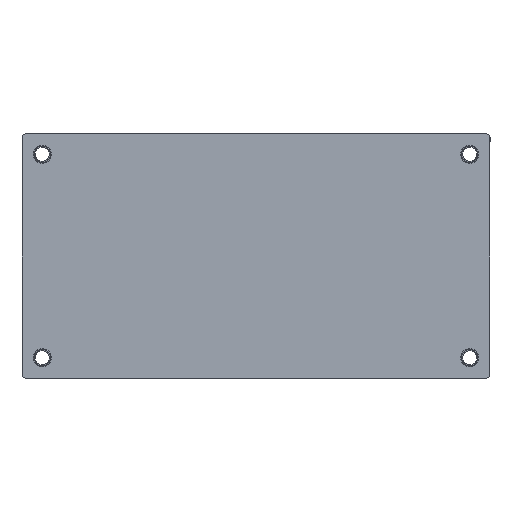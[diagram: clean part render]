
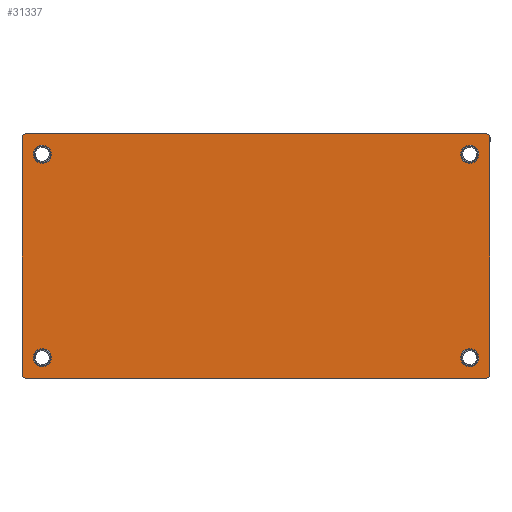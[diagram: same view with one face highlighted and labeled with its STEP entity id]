
A CAD part, front view. The second image highlights one B-rep face of the part: STEP entity #31337.
In plain terms, the highlighted planar face has unit normal (0, -1, 0).
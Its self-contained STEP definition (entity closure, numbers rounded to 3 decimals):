
#74 = CARTESIAN_POINT ( 'NONE',  ( 58.4, -1.5, -30.5 ) ) ;
#87 = VERTEX_POINT ( 'NONE', #30105 ) ;
#342 = ORIENTED_EDGE ( 'NONE', *, *, #11910, .F. ) ;
#655 = EDGE_CURVE ( 'NONE', #23307, #87, #2824, .T. ) ;
#1095 = CIRCLE ( 'NONE', #26926, 2.25 ) ;
#1270 = AXIS2_PLACEMENT_3D ( 'NONE', #29353, #29191, #17192 ) ;
#1369 = CARTESIAN_POINT ( 'NONE',  ( -57.4, -1.5, 29.5 ) ) ;
#1965 = DIRECTION ( 'NONE',  ( 0., 0., -1. ) ) ;
#2291 = CARTESIAN_POINT ( 'NONE',  ( -57.4, -1.5, 30.5 ) ) ;
#2824 = CIRCLE ( 'NONE', #8525, 1. ) ;
#2994 = VECTOR ( 'NONE', #26561, 1000. ) ;
#3361 = VERTEX_POINT ( 'NONE', #15824 ) ;
#3375 = LINE ( 'NONE', #13261, #13070 ) ;
#3825 = FACE_BOUND ( 'NONE', #12614, .T. ) ;
#3958 = DIRECTION ( 'NONE',  ( 0., -1., 0. ) ) ;
#4102 = CARTESIAN_POINT ( 'NONE',  ( 58.4, -1.5, 29.5 ) ) ;
#4318 = EDGE_LOOP ( 'NONE', ( #342 ) ) ;
#4622 = EDGE_LOOP ( 'NONE', ( #10794 ) ) ;
#5109 = LINE ( 'NONE', #74, #15769 ) ;
#6070 = CARTESIAN_POINT ( 'NONE',  ( 58.4, -1.5, -29.5 ) ) ;
#6259 = FACE_BOUND ( 'NONE', #31270, .T. ) ;
#6479 = DIRECTION ( 'NONE',  ( 0., -1., 0. ) ) ;
#6579 = EDGE_CURVE ( 'NONE', #10495, #10495, #22077, .T. ) ;
#7095 = DIRECTION ( 'NONE',  ( 0., 0., -1. ) ) ;
#7222 = DIRECTION ( 'NONE',  ( 0., -1., 0. ) ) ;
#7696 = DIRECTION ( 'NONE',  ( 0., -1., 0. ) ) ;
#8226 = ORIENTED_EDGE ( 'NONE', *, *, #15524, .T. ) ;
#8525 = AXIS2_PLACEMENT_3D ( 'NONE', #1369, #3958, #25979 ) ;
#8778 = CARTESIAN_POINT ( 'NONE',  ( 53.35, -1.5, 25.4 ) ) ;
#8846 = FACE_BOUND ( 'NONE', #4622, .T. ) ;
#9236 = CARTESIAN_POINT ( 'NONE',  ( 57.4, -1.5, 29.5 ) ) ;
#10121 = ORIENTED_EDGE ( 'NONE', *, *, #26071, .T. ) ;
#10495 = VERTEX_POINT ( 'NONE', #25381 ) ;
#10509 = AXIS2_PLACEMENT_3D ( 'NONE', #19283, #24164, #1965 ) ;
#10719 = VERTEX_POINT ( 'NONE', #20182 ) ;
#10794 = ORIENTED_EDGE ( 'NONE', *, *, #21148, .F. ) ;
#11065 = AXIS2_PLACEMENT_3D ( 'NONE', #9236, #19247, #26552 ) ;
#11076 = VERTEX_POINT ( 'NONE', #28388 ) ;
#11910 = EDGE_CURVE ( 'NONE', #3361, #3361, #24989, .T. ) ;
#12614 = EDGE_LOOP ( 'NONE', ( #14808 ) ) ;
#13070 = VECTOR ( 'NONE', #15838, 1000. ) ;
#13261 = CARTESIAN_POINT ( 'NONE',  ( 58.4, -1.5, 30.5 ) ) ;
#13380 = ORIENTED_EDGE ( 'NONE', *, *, #30497, .T. ) ;
#13588 = LINE ( 'NONE', #23463, #22478 ) ;
#13716 = CARTESIAN_POINT ( 'NONE',  ( 58.4, -1.5, 30.5 ) ) ;
#13931 = CARTESIAN_POINT ( 'NONE',  ( -57.4, -1.5, -29.5 ) ) ;
#14094 = LINE ( 'NONE', #31406, #2994 ) ;
#14808 = ORIENTED_EDGE ( 'NONE', *, *, #17877, .F. ) ;
#15430 = AXIS2_PLACEMENT_3D ( 'NONE', #13716, #23584, #24535 ) ;
#15524 = EDGE_CURVE ( 'NONE', #24298, #31544, #25595, .T. ) ;
#15769 = VECTOR ( 'NONE', #31967, 1000. ) ;
#15824 = CARTESIAN_POINT ( 'NONE',  ( 53.35, -1.5, -27.65 ) ) ;
#15838 = DIRECTION ( 'NONE',  ( -1., 0., 0. ) ) ;
#16123 = FACE_OUTER_BOUND ( 'NONE', #24118, .T. ) ;
#16349 = ORIENTED_EDGE ( 'NONE', *, *, #25554, .T. ) ;
#16730 = ORIENTED_EDGE ( 'NONE', *, *, #6579, .F. ) ;
#16934 = ORIENTED_EDGE ( 'NONE', *, *, #27760, .T. ) ;
#17192 = DIRECTION ( 'NONE',  ( 0., 0., -1. ) ) ;
#17813 = ORIENTED_EDGE ( 'NONE', *, *, #655, .T. ) ;
#17874 = AXIS2_PLACEMENT_3D ( 'NONE', #8778, #29277, #7095 ) ;
#17877 = EDGE_CURVE ( 'NONE', #19647, #19647, #1095, .T. ) ;
#18764 = DIRECTION ( 'NONE',  ( 0., 0., -1. ) ) ;
#19119 = EDGE_CURVE ( 'NONE', #19859, #10719, #30599, .T. ) ;
#19170 = FACE_BOUND ( 'NONE', #4318, .T. ) ;
#19247 = DIRECTION ( 'NONE',  ( 0., -1., 0. ) ) ;
#19283 = CARTESIAN_POINT ( 'NONE',  ( 53.35, -1.5, -25.4 ) ) ;
#19647 = VERTEX_POINT ( 'NONE', #19976 ) ;
#19859 = VERTEX_POINT ( 'NONE', #22054 ) ;
#19976 = CARTESIAN_POINT ( 'NONE',  ( -53.35, -1.5, 23.15 ) ) ;
#20182 = CARTESIAN_POINT ( 'NONE',  ( -57.4, -1.5, -30.5 ) ) ;
#21148 = EDGE_CURVE ( 'NONE', #11076, #11076, #28588, .T. ) ;
#21793 = DIRECTION ( 'NONE',  ( 0., 0., -1. ) ) ;
#22054 = CARTESIAN_POINT ( 'NONE',  ( -58.4, -1.5, -29.5 ) ) ;
#22077 = CIRCLE ( 'NONE', #17874, 2.25 ) ;
#22478 = VECTOR ( 'NONE', #26052, 1000. ) ;
#22918 = CARTESIAN_POINT ( 'NONE',  ( -53.35, -1.5, 25.4 ) ) ;
#23307 = VERTEX_POINT ( 'NONE', #2291 ) ;
#23384 = CARTESIAN_POINT ( 'NONE',  ( 57.4, -1.5, 30.5 ) ) ;
#23463 = CARTESIAN_POINT ( 'NONE',  ( -58.4, -1.5, -30.5 ) ) ;
#23584 = DIRECTION ( 'NONE',  ( 0., -1., 0. ) ) ;
#23995 = ORIENTED_EDGE ( 'NONE', *, *, #24551, .T. ) ;
#24118 = EDGE_LOOP ( 'NONE', ( #16349, #24724, #10121, #8226, #13380, #23995, #16934, #17813 ) ) ;
#24164 = DIRECTION ( 'NONE',  ( 0., -1., 0. ) ) ;
#24298 = VERTEX_POINT ( 'NONE', #27885 ) ;
#24535 = DIRECTION ( 'NONE',  ( 0., 0., -1. ) ) ;
#24551 = EDGE_CURVE ( 'NONE', #25278, #26334, #28112, .T. ) ;
#24724 = ORIENTED_EDGE ( 'NONE', *, *, #19119, .T. ) ;
#24989 = CIRCLE ( 'NONE', #10509, 2.25 ) ;
#25027 = DIRECTION ( 'NONE',  ( 0., 0., -1. ) ) ;
#25278 = VERTEX_POINT ( 'NONE', #4102 ) ;
#25381 = CARTESIAN_POINT ( 'NONE',  ( 53.35, -1.5, 23.15 ) ) ;
#25554 = EDGE_CURVE ( 'NONE', #87, #19859, #13588, .T. ) ;
#25595 = CIRCLE ( 'NONE', #1270, 1. ) ;
#25979 = DIRECTION ( 'NONE',  ( 0., 0., -1. ) ) ;
#26005 = PLANE ( 'NONE',  #15430 ) ;
#26052 = DIRECTION ( 'NONE',  ( 0., 0., -1. ) ) ;
#26071 = EDGE_CURVE ( 'NONE', #10719, #24298, #5109, .T. ) ;
#26334 = VERTEX_POINT ( 'NONE', #23384 ) ;
#26552 = DIRECTION ( 'NONE',  ( 0., 0., -1. ) ) ;
#26561 = DIRECTION ( 'NONE',  ( 0., 0., 1. ) ) ;
#26819 = CARTESIAN_POINT ( 'NONE',  ( -53.35, -1.5, -25.4 ) ) ;
#26926 = AXIS2_PLACEMENT_3D ( 'NONE', #22918, #7696, #25027 ) ;
#27515 = AXIS2_PLACEMENT_3D ( 'NONE', #13931, #6479, #18764 ) ;
#27760 = EDGE_CURVE ( 'NONE', #26334, #23307, #3375, .T. ) ;
#27885 = CARTESIAN_POINT ( 'NONE',  ( 57.4, -1.5, -30.5 ) ) ;
#28087 = AXIS2_PLACEMENT_3D ( 'NONE', #26819, #7222, #21793 ) ;
#28112 = CIRCLE ( 'NONE', #11065, 1. ) ;
#28388 = CARTESIAN_POINT ( 'NONE',  ( -53.35, -1.5, -27.65 ) ) ;
#28588 = CIRCLE ( 'NONE', #28087, 2.25 ) ;
#29191 = DIRECTION ( 'NONE',  ( 0., -1., 0. ) ) ;
#29277 = DIRECTION ( 'NONE',  ( 0., -1., 0. ) ) ;
#29353 = CARTESIAN_POINT ( 'NONE',  ( 57.4, -1.5, -29.5 ) ) ;
#30105 = CARTESIAN_POINT ( 'NONE',  ( -58.4, -1.5, 29.5 ) ) ;
#30497 = EDGE_CURVE ( 'NONE', #31544, #25278, #14094, .T. ) ;
#30599 = CIRCLE ( 'NONE', #27515, 1. ) ;
#31270 = EDGE_LOOP ( 'NONE', ( #16730 ) ) ;
#31337 = ADVANCED_FACE ( 'NONE', ( #19170, #8846, #6259, #3825, #16123 ), #26005, .T. ) ;
#31406 = CARTESIAN_POINT ( 'NONE',  ( 58.4, -1.5, -30.5 ) ) ;
#31544 = VERTEX_POINT ( 'NONE', #6070 ) ;
#31967 = DIRECTION ( 'NONE',  ( 1., 0., 0. ) ) ;
